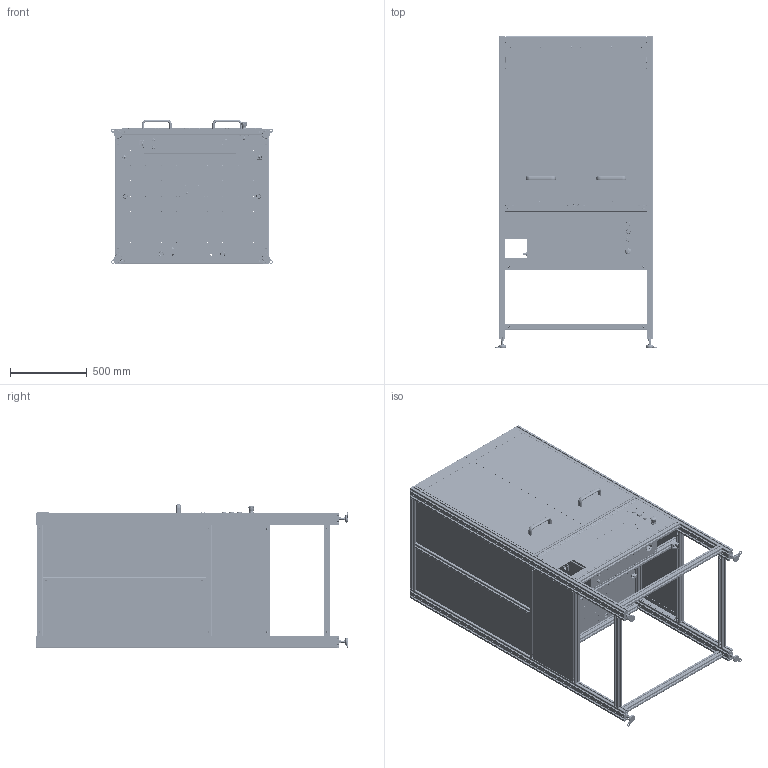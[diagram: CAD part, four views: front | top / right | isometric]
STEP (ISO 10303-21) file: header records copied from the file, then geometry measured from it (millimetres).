
FILE_DESCRIPTION(/* description */ (''),/* implementation_level */ '2;1');
FILE_NAME(/* name */ 'C:\$WorkingFolder\EngineeringData\2022 projects\sigamo\ROBOCU\ROBOCU-CUBE-ASM-3000_REV-B.stp',/* time_stamp */ '2022-05-24T13:33:49+01:00',/* author */ ('salta'),/* organization */ (''),/* preprocessor_version */ 'ST-DEVELOPER v19',/* originating_system */ 'Autodesk Inventor 2023',/* authorisation */ '');
FILE_SCHEMA (('AUTOMOTIVE_DESIGN { 1 0 10303 214 3 1 1 }'));
Products named in the file (221): ROBOCU-CUBE-ASM-3000; ROBOCU-FRME-ASM-0000; ROBOCU-FRME-ASM-0001; ROBOCU-FRME-PUR-0007; STRUT_PROFILE_40X80L; LEBURO-BASE-PUR-0016; LEBURO-BASE-PUR-0016_1; ROBOCU-FRME-PUR-0011; Levelling foot GN 32-50-M12-80-A1-SK; _Levelling foot GN 32-50-M12-80-A1-SK (0)-1; _Levelling foot GN 32-50-M12-80-A1-SK (0)-2; _Levelling foot GN 32-M12-3; LEBURO-BASE-PUR-0016_2; ROBOCU-FRME-PUR-0010; PLATE_40X80_3842536562; 40x80-M12-3842536562; DIN 7984 - M12 x 20 - ST88-VZP; Cap_40x80_Grey_3842548748; LEBURO-BASE-PUR-0016_3; Angle bar anodized Alu 30x30x2; Angle bar anodized Alu 30x30x2_1; ROBOCU-FRME-PUR-0013; ROBOCU-FRME-PUR-0014; ROBOCU-FRME-STM-0011; ISO 4762  - M8 x 12 - ST88-VZK; ROBOCU-BASE-ASM-0003; ROBOCU-BASE-CNC-0001; DLE-DR-0053; DLE-DR-0053-ETY-DR-0023; DLE-DR-0053-ETY-DR-0013; DLE-DR-0053-ZLW-konfig; DLE-DR-0053-ZSX-104001-konfig; DLE-DR-0053-ZTL-104002; DLE-DR-0053-SAXT-104001; DLE-DR-0053-ZTL-10400S-V; DLE-DR-0053-SAWT-104002; DLE-DR-0053-NOR-10412; DLE-DR-0053-ZR-104001-konfig; DLE-DR-0053-ZR-104001-XX-konfig; DLE-DR-0053-ZSY-104002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
Assembly tree (581 placements, depth 7):
  ROBOCU-CUBE-ASM-3000
    ROBOCU-FRME-ASM-0000
      ROBOCU-FRME-ASM-0001
        ROBOCU-FRME-PUR-0007
        STRUT_PROFILE_40X80L  x4
        LEBURO-BASE-PUR-0016  x2
        LEBURO-BASE-PUR-0016_1  x8
        ROBOCU-FRME-PUR-0010  x4
        ROBOCU-FRME-PUR-0011
        Levelling foot GN 32-50-M12-80-A1-SK  x4
          _Levelling foot GN 32-50-M12-80-A1-SK (0)-1
          _Levelling foot GN 32-50-M12-80-A1-SK (0)-2
          _Levelling foot GN 32-M12-3
        QUICK_CONNECTOR_10_3842535458  x34
          2022_03_23_15_17_45_0546
          2022_03_23_15_17_45_0515
          2022_03_23_15_17_45_0437
        LEBURO-BASE-PUR-0016_2  x7
        PLATE_40X80_3842536562  x4
          40x80-M12-3842536562
          DIN 7984 - M12 x 20 - ST88-VZP
        Cap_40x80_Grey_3842548748  x4
        Bracket_40_40_with_fastening_set_3842529383  x2
          Gusset_40_40_3842528967
          T_BOLT_3842528715
          FLANGE_NUT_M8_3842345081
        LEBURO-BASE-PUR-0016_3
        Angle bar anodized Alu 30x30x2  x4
        Angle bar anodized Alu 30x30x2_1  x4
        ISO 4762  - M8 x 12 - ST88-VZK  x16
        T_NUT_N10_3842530287  x16
      ROBOCU-FRME-PUR-0013  x2
      ROBOCU-FRME-PUR-0014
      ROBOCU-FRME-STM-0011
      ISO 4762  - M8 x 12 - ST88-VZK  x4
      T_NUT_N10_3842530287  x4
    ROBOCU-BASE-ASM-0003
      ROBOCU-BASE-CNC-0001
      DLE-DR-0053
        DLE-DR-0053-ETY-DR-0023
        DLE-DR-0053-ETY-DR-0013  x3
        DLE-DR-0053-ZLW-konfig  x3
          DLE-DR-0053-ZSX-104001-konfig
          DLE-DR-0053-ZTL-104002
            DLE-DR-0053-SAXT-104001
            DLE-DR-0053-SAXT-104002
            DLE-DR-0053-NOR-10614  x2
            DLE-DR-0053-ZTL-10400S-V
              DLE-DR-0053-SAWT-104002
              DLE-DR-0053-NOR-10412  x4
              DLE-DR-0053-NOR-10604  x4
              DLE-DR-0053-JTEM-10  x4
              DLE-DR-0053-NOR-20901  x2
              DLE-DR-0053-ZTY-104035  x2
            DLE-DR-0053-ZTZ-104009  x2
          DLE-DR-0053-ZR-104001-konfig
            DLE-DR-0053-ZR-104001-XX-konfig
            DLE-DR-0053-NOR-10703  x2
            DLE-DR-0053-ZSY-104002  x2
          DLE-DR-0053-ZTF-104004
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Bounding box: 1054.14 x 2030.6 x 938.36 mm (x, y, z)
Volume: 97800345.5 mm3; surface area: 34348636.3 mm2
Topology: 860 solids, 860 shells, 42491 faces, 114457 edges, 74596 vertices
Faces by surface type: plane 27614, cylinder 9659, cone 2207, bspline 1415, torus 1306, sphere 290
Full cylindrical faces by diameter (mm): 0.5 x12, 0.7 x12, 0.927 x21, 1 x10, 1.1 x2, 1.2 x2, 1.5 x69, 1.8 x37, 1.94 x1, 2 x16, 2.3 x4, 2.4 x4, 2.5 x20, 2.6 x21, 2.65 x8, 3 x20, 3.05 x4, 3.1 x2, 3.2 x5, 3.242 x22, 3.3 x6, 3.37 x2, 3.4 x26, 3.5 x16, 3.571 x2, 3.61 x2, 3.7 x5, 4 x161, 4.018 x12, 4.1 x24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
Entity records: 558368 total; most frequent: CARTESIAN_POINT 140833, ORIENTED_EDGE 85566, DIRECTION 82194, EDGE_CURVE 42783, LINE 31908, VECTOR 31908, VERTEX_POINT 28045, AXIS2_PLACEMENT_3D 25143
